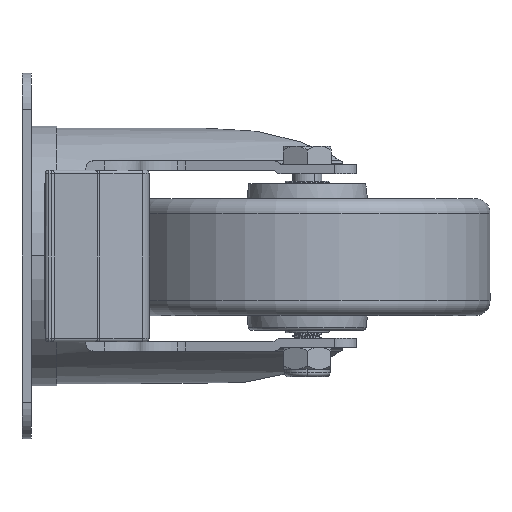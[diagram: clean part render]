
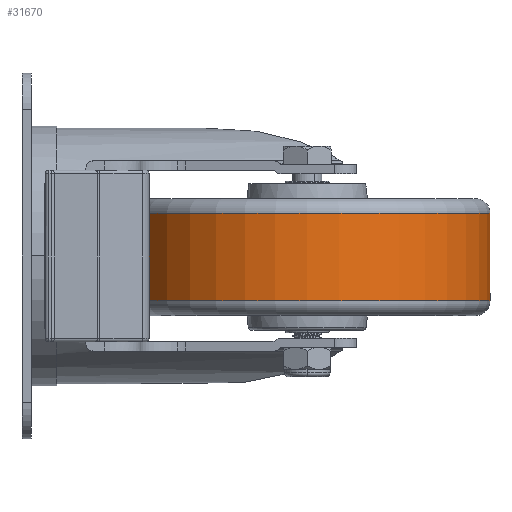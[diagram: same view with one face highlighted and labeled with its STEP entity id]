
A CAD part, left-side view. The second image highlights one B-rep face of the part: STEP entity #31670.
In plain terms, the highlighted cylindrical face has radius 50 mm (diameter 100 mm), a partial arc.
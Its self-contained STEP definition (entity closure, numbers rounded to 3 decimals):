
#811 = ORIENTED_EDGE ( 'NONE', *, *, #3134, .T. ) ;
#1221 = CARTESIAN_POINT ( 'NONE',  ( 0., 12., 50. ) ) ;
#2282 = DIRECTION ( 'NONE',  ( 0., -1., 0. ) ) ;
#3134 = EDGE_CURVE ( 'NONE', #3362, #27516, #28662, .T. ) ;
#3362 = VERTEX_POINT ( 'NONE', #1221 ) ;
#3625 = DIRECTION ( 'NONE',  ( 0., -1., 0. ) ) ;
#3646 = VERTEX_POINT ( 'NONE', #19194 ) ;
#4091 = DIRECTION ( 'NONE',  ( 0., 0., -1. ) ) ;
#5048 = EDGE_CURVE ( 'NONE', #3646, #27516, #22854, .T. ) ;
#6486 = FACE_OUTER_BOUND ( 'NONE', #23919, .T. ) ;
#9904 = ORIENTED_EDGE ( 'NONE', *, *, #19465, .T. ) ;
#10943 = DIRECTION ( 'NONE',  ( 0., 0., -1. ) ) ;
#12387 = CARTESIAN_POINT ( 'NONE',  ( 0., 0., 0. ) ) ;
#14719 = CIRCLE ( 'NONE', #34139, 50. ) ;
#15863 = LINE ( 'NONE', #25767, #23923 ) ;
#16802 = CARTESIAN_POINT ( 'NONE',  ( 0., 12., 0. ) ) ;
#17249 = DIRECTION ( 'NONE',  ( 0., -1., 0. ) ) ;
#17752 = DIRECTION ( 'NONE',  ( 0., -1., 0. ) ) ;
#17873 = AXIS2_PLACEMENT_3D ( 'NONE', #32567, #17249, #4091 ) ;
#18881 = VECTOR ( 'NONE', #2282, 1000. ) ;
#19194 = CARTESIAN_POINT ( 'NONE',  ( 0., -12., -50. ) ) ;
#19465 = EDGE_CURVE ( 'NONE', #22543, #3362, #14719, .T. ) ;
#22543 = VERTEX_POINT ( 'NONE', #31689 ) ;
#22581 = CARTESIAN_POINT ( 'NONE',  ( 0., -12., 50. ) ) ;
#22781 = CYLINDRICAL_SURFACE ( 'NONE', #27239, 50. ) ;
#22854 = CIRCLE ( 'NONE', #17873, 50. ) ;
#22964 = DIRECTION ( 'NONE',  ( 0., -1., 0. ) ) ;
#23919 = EDGE_LOOP ( 'NONE', ( #9904, #811, #26833, #28882 ) ) ;
#23923 = VECTOR ( 'NONE', #17752, 1000. ) ;
#24792 = DIRECTION ( 'NONE',  ( 0., 0., -1. ) ) ;
#25767 = CARTESIAN_POINT ( 'NONE',  ( 0., 0., -50. ) ) ;
#26833 = ORIENTED_EDGE ( 'NONE', *, *, #5048, .F. ) ;
#27239 = AXIS2_PLACEMENT_3D ( 'NONE', #12387, #22964, #10943 ) ;
#27516 = VERTEX_POINT ( 'NONE', #22581 ) ;
#28662 = LINE ( 'NONE', #33700, #18881 ) ;
#28882 = ORIENTED_EDGE ( 'NONE', *, *, #29625, .F. ) ;
#29625 = EDGE_CURVE ( 'NONE', #22543, #3646, #15863, .T. ) ;
#31670 = ADVANCED_FACE ( 'NONE', ( #6486 ), #22781, .T. ) ;
#31689 = CARTESIAN_POINT ( 'NONE',  ( 0., 12., -50. ) ) ;
#32567 = CARTESIAN_POINT ( 'NONE',  ( 0., -12., 0. ) ) ;
#33700 = CARTESIAN_POINT ( 'NONE',  ( 0., 0., 50. ) ) ;
#34139 = AXIS2_PLACEMENT_3D ( 'NONE', #16802, #3625, #24792 ) ;
